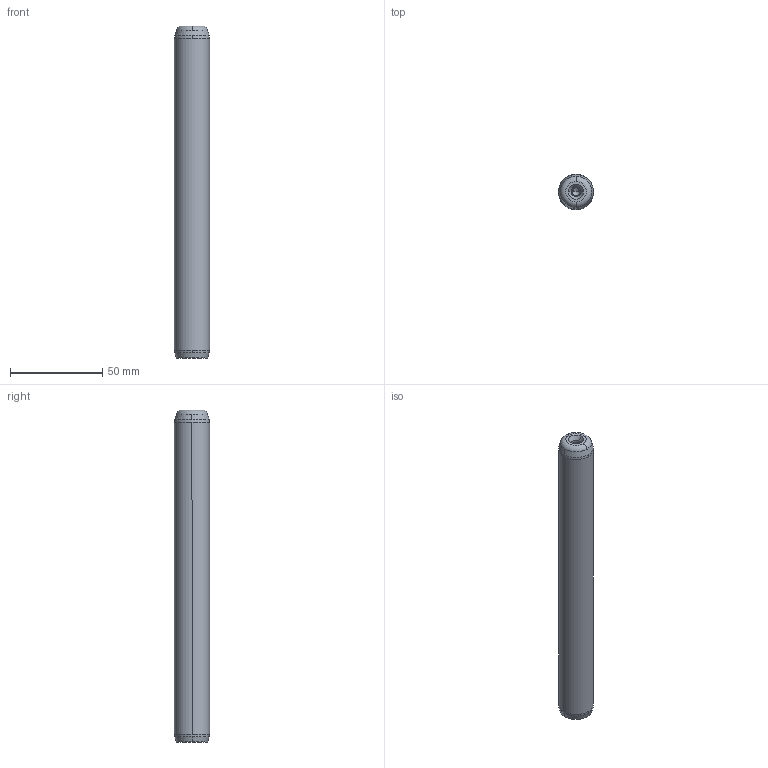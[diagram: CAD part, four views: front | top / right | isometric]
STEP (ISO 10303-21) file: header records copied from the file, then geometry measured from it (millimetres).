
FILE_DESCRIPTION((''),'2;1');
FILE_NAME('P10_019_180.stp','2008-12-23T13:57:57',(''),(''),'Mechanical Desktop 2009','Mechanical Desktop 2009',', , ');
FILE_SCHEMA(('CONFIG_CONTROL_DESIGN'));
Length unit declared in the file: millimetre
Products named in the file (5): Product; ProductAA; blmdl1; ProductA; blmdl1A
Assembly tree (2 placements, depth 3):
  Product
    ProductAA
      blmdl1
  ProductA
  blmdl1A
Bounding box: 19 x 19 x 180 mm (x, y, z)
Volume: 50308.6 mm3; surface area: 11332.8 mm2
Topology: 1 solids, 1 shells, 26 faces, 66 edges, 41 vertices
Faces by surface type: cone 10, cylinder 6, torus 4, bspline 4, plane 2
Entity records: 1100 total; most frequent: CARTESIAN_POINT 238, DIRECTION 162, ORIENTED_EDGE 128, AXIS2_PLACEMENT_3D 73, EDGE_CURVE 64, CIRCLE 48, VERTEX_POINT 41, EDGE_LOOP 27
